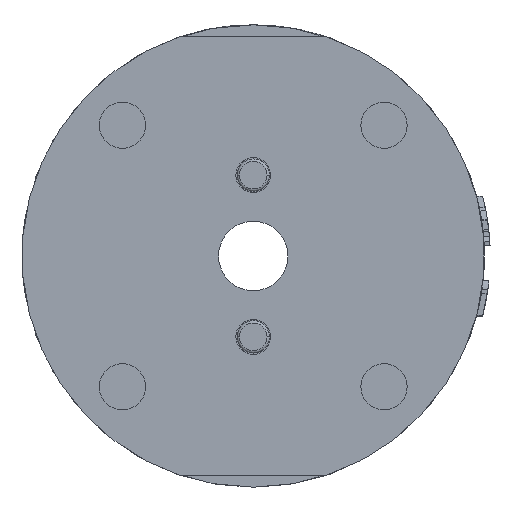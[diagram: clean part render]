
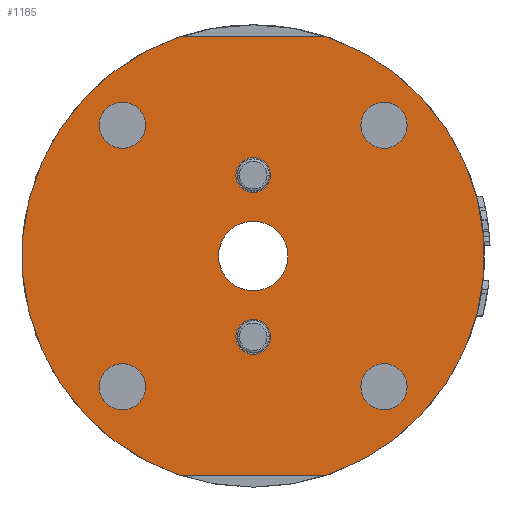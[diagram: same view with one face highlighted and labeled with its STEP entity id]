
A CAD part, front view. The second image highlights one B-rep face of the part: STEP entity #1185.
In plain terms, the highlighted planar face has unit normal (0, -1, 0).
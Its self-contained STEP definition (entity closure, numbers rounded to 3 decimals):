
#191=FACE_BOUND('',#2365,.T.);
#192=FACE_BOUND('',#2366,.T.);
#193=FACE_BOUND('',#2367,.T.);
#194=FACE_BOUND('',#2368,.T.);
#195=FACE_BOUND('',#2369,.T.);
#196=FACE_BOUND('',#2370,.T.);
#197=FACE_BOUND('',#2371,.T.);
#198=FACE_BOUND('',#2372,.T.);
#330=CIRCLE('',#7284,20.);
#331=CIRCLE('',#7285,20.);
#332=CIRCLE('',#7286,3.);
#333=CIRCLE('',#7287,3.);
#334=CIRCLE('',#7288,1.5);
#335=CIRCLE('',#7289,1.5);
#336=CIRCLE('',#7290,1.5);
#337=CIRCLE('',#7291,1.5);
#338=CIRCLE('',#7292,2.);
#339=CIRCLE('',#7293,2.);
#340=CIRCLE('',#7294,2.);
#341=CIRCLE('',#7295,2.);
#342=CIRCLE('',#7296,2.);
#343=CIRCLE('',#7297,2.);
#344=CIRCLE('',#7298,2.);
#345=CIRCLE('',#7299,2.);
#705=PLANE('',#7300);
#860=LINE('',#24730,#1617);
#861=LINE('',#24734,#1618);
#1185=ADVANCED_FACE('',(#191,#192,#193,#194,#195,#196,#197,#198),#705,.F.);
#1617=VECTOR('',#8325,1.);
#1618=VECTOR('',#8328,1.);
#2365=EDGE_LOOP('',(#3863,#3864,#3865,#3866));
#2366=EDGE_LOOP('',(#3867,#3868));
#2367=EDGE_LOOP('',(#3869,#3870));
#2368=EDGE_LOOP('',(#3871,#3872));
#2369=EDGE_LOOP('',(#3873,#3874));
#2370=EDGE_LOOP('',(#3875,#3876));
#2371=EDGE_LOOP('',(#3877,#3878));
#2372=EDGE_LOOP('',(#3879,#3880));
#3863=ORIENTED_EDGE('',*,*,#6068,.F.);
#3864=ORIENTED_EDGE('',*,*,#6069,.F.);
#3865=ORIENTED_EDGE('',*,*,#6070,.F.);
#3866=ORIENTED_EDGE('',*,*,#6071,.F.);
#3867=ORIENTED_EDGE('',*,*,#6072,.F.);
#3868=ORIENTED_EDGE('',*,*,#6073,.F.);
#3869=ORIENTED_EDGE('',*,*,#6074,.F.);
#3870=ORIENTED_EDGE('',*,*,#6075,.F.);
#3871=ORIENTED_EDGE('',*,*,#6076,.F.);
#3872=ORIENTED_EDGE('',*,*,#6077,.F.);
#3873=ORIENTED_EDGE('',*,*,#6078,.F.);
#3874=ORIENTED_EDGE('',*,*,#6079,.F.);
#3875=ORIENTED_EDGE('',*,*,#6080,.F.);
#3876=ORIENTED_EDGE('',*,*,#6081,.F.);
#3877=ORIENTED_EDGE('',*,*,#6082,.F.);
#3878=ORIENTED_EDGE('',*,*,#6083,.F.);
#3879=ORIENTED_EDGE('',*,*,#6084,.F.);
#3880=ORIENTED_EDGE('',*,*,#6085,.F.);
#5132=VERTEX_POINT('',#24728);
#5133=VERTEX_POINT('',#24729);
#5134=VERTEX_POINT('',#24731);
#5135=VERTEX_POINT('',#24733);
#5136=VERTEX_POINT('',#24736);
#5137=VERTEX_POINT('',#24737);
#5138=VERTEX_POINT('',#24740);
#5139=VERTEX_POINT('',#24741);
#5140=VERTEX_POINT('',#24744);
#5141=VERTEX_POINT('',#24745);
#5142=VERTEX_POINT('',#24748);
#5143=VERTEX_POINT('',#24749);
#5144=VERTEX_POINT('',#24752);
#5145=VERTEX_POINT('',#24753);
#5146=VERTEX_POINT('',#24756);
#5147=VERTEX_POINT('',#24757);
#5148=VERTEX_POINT('',#24760);
#5149=VERTEX_POINT('',#24761);
#6068=EDGE_CURVE('',#5132,#5133,#330,.T.);
#6069=EDGE_CURVE('',#5134,#5132,#860,.T.);
#6070=EDGE_CURVE('',#5135,#5134,#331,.T.);
#6071=EDGE_CURVE('',#5133,#5135,#861,.T.);
#6072=EDGE_CURVE('',#5136,#5137,#332,.T.);
#6073=EDGE_CURVE('',#5137,#5136,#333,.T.);
#6074=EDGE_CURVE('',#5138,#5139,#334,.T.);
#6075=EDGE_CURVE('',#5139,#5138,#335,.T.);
#6076=EDGE_CURVE('',#5140,#5141,#336,.T.);
#6077=EDGE_CURVE('',#5141,#5140,#337,.T.);
#6078=EDGE_CURVE('',#5142,#5143,#338,.T.);
#6079=EDGE_CURVE('',#5143,#5142,#339,.T.);
#6080=EDGE_CURVE('',#5144,#5145,#340,.T.);
#6081=EDGE_CURVE('',#5145,#5144,#341,.T.);
#6082=EDGE_CURVE('',#5146,#5147,#342,.T.);
#6083=EDGE_CURVE('',#5147,#5146,#343,.T.);
#6084=EDGE_CURVE('',#5148,#5149,#344,.T.);
#6085=EDGE_CURVE('',#5149,#5148,#345,.T.);
#7284=AXIS2_PLACEMENT_3D('',#24727,#8323,#8324);
#7285=AXIS2_PLACEMENT_3D('',#24732,#8326,#8327);
#7286=AXIS2_PLACEMENT_3D('',#24735,#8329,#8330);
#7287=AXIS2_PLACEMENT_3D('',#24738,#8331,#8332);
#7288=AXIS2_PLACEMENT_3D('',#24739,#8333,#8334);
#7289=AXIS2_PLACEMENT_3D('',#24742,#8335,#8336);
#7290=AXIS2_PLACEMENT_3D('',#24743,#8337,#8338);
#7291=AXIS2_PLACEMENT_3D('',#24746,#8339,#8340);
#7292=AXIS2_PLACEMENT_3D('',#24747,#8341,#8342);
#7293=AXIS2_PLACEMENT_3D('',#24750,#8343,#8344);
#7294=AXIS2_PLACEMENT_3D('',#24751,#8345,#8346);
#7295=AXIS2_PLACEMENT_3D('',#24754,#8347,#8348);
#7296=AXIS2_PLACEMENT_3D('',#24755,#8349,#8350);
#7297=AXIS2_PLACEMENT_3D('',#24758,#8351,#8352);
#7298=AXIS2_PLACEMENT_3D('',#24759,#8353,#8354);
#7299=AXIS2_PLACEMENT_3D('',#24762,#8355,#8356);
#7300=AXIS2_PLACEMENT_3D('',#24763,#8357,#8358);
#8323=DIRECTION('',(0.,1.,0.));
#8324=DIRECTION('',(-0.312,0.,-0.95));
#8325=DIRECTION('',(-1.,0.,0.));
#8326=DIRECTION('',(0.,1.,0.));
#8327=DIRECTION('',(0.312,0.,0.95));
#8328=DIRECTION('',(1.,0.,0.));
#8329=DIRECTION('',(0.,-1.,0.));
#8330=DIRECTION('',(1.,0.,0.));
#8331=DIRECTION('',(0.,-1.,0.));
#8332=DIRECTION('',(-1.,0.,0.));
#8333=DIRECTION('',(0.,-1.,0.));
#8334=DIRECTION('',(1.,0.,0.));
#8335=DIRECTION('',(0.,-1.,0.));
#8336=DIRECTION('',(-1.,0.,0.));
#8337=DIRECTION('',(0.,-1.,0.));
#8338=DIRECTION('',(1.,0.,0.));
#8339=DIRECTION('',(0.,-1.,0.));
#8340=DIRECTION('',(-1.,0.,0.));
#8341=DIRECTION('',(0.,-1.,0.));
#8342=DIRECTION('',(1.,0.,0.));
#8343=DIRECTION('',(0.,-1.,0.));
#8344=DIRECTION('',(-1.,0.,0.));
#8345=DIRECTION('',(0.,-1.,0.));
#8346=DIRECTION('',(0.,0.,-1.));
#8347=DIRECTION('',(0.,-1.,0.));
#8348=DIRECTION('',(0.,0.,1.));
#8349=DIRECTION('',(0.,-1.,0.));
#8350=DIRECTION('',(-1.,0.,0.));
#8351=DIRECTION('',(0.,-1.,0.));
#8352=DIRECTION('',(1.,0.,0.));
#8353=DIRECTION('',(0.,-1.,0.));
#8354=DIRECTION('',(0.,0.,1.));
#8355=DIRECTION('',(0.,-1.,0.));
#8356=DIRECTION('',(0.,0.,-1.));
#8357=DIRECTION('',(0.,1.,0.));
#8358=DIRECTION('',(0.,0.,-1.));
#24727=CARTESIAN_POINT('',(0.,0.,0.));
#24728=CARTESIAN_POINT('',(-6.245,0.,-19.));
#24729=CARTESIAN_POINT('',(-6.245,0.,19.));
#24730=CARTESIAN_POINT('',(6.245,0.,-19.));
#24731=CARTESIAN_POINT('',(6.245,0.,-19.));
#24732=CARTESIAN_POINT('',(0.,0.,0.));
#24733=CARTESIAN_POINT('',(6.245,0.,19.));
#24734=CARTESIAN_POINT('',(-6.245,0.,19.));
#24735=CARTESIAN_POINT('',(0.,0.,0.));
#24736=CARTESIAN_POINT('',(3.,0.,0.));
#24737=CARTESIAN_POINT('',(-3.,0.,0.));
#24738=CARTESIAN_POINT('',(0.,0.,0.));
#24739=CARTESIAN_POINT('',(0.,0.,-7.));
#24740=CARTESIAN_POINT('',(1.5,0.,-7.));
#24741=CARTESIAN_POINT('',(-1.5,0.,-7.));
#24742=CARTESIAN_POINT('',(0.,0.,-7.));
#24743=CARTESIAN_POINT('',(0.,0.,7.));
#24744=CARTESIAN_POINT('',(1.5,0.,7.));
#24745=CARTESIAN_POINT('',(-1.5,0.,7.));
#24746=CARTESIAN_POINT('',(0.,0.,7.));
#24747=CARTESIAN_POINT('',(11.314,0.,-11.314));
#24748=CARTESIAN_POINT('',(13.314,0.,-11.314));
#24749=CARTESIAN_POINT('',(9.314,0.,-11.314));
#24750=CARTESIAN_POINT('',(11.314,0.,-11.314));
#24751=CARTESIAN_POINT('',(-11.314,0.,-11.314));
#24752=CARTESIAN_POINT('',(-11.314,0.,-13.314));
#24753=CARTESIAN_POINT('',(-11.314,0.,-9.314));
#24754=CARTESIAN_POINT('',(-11.314,0.,-11.314));
#24755=CARTESIAN_POINT('',(-11.314,0.,11.314));
#24756=CARTESIAN_POINT('',(-13.314,0.,11.314));
#24757=CARTESIAN_POINT('',(-9.314,0.,11.314));
#24758=CARTESIAN_POINT('',(-11.314,0.,11.314));
#24759=CARTESIAN_POINT('',(11.314,0.,11.314));
#24760=CARTESIAN_POINT('',(11.314,0.,13.314));
#24761=CARTESIAN_POINT('',(11.314,0.,9.314));
#24762=CARTESIAN_POINT('',(11.314,0.,11.314));
#24763=CARTESIAN_POINT('',(0.,0.,0.));
